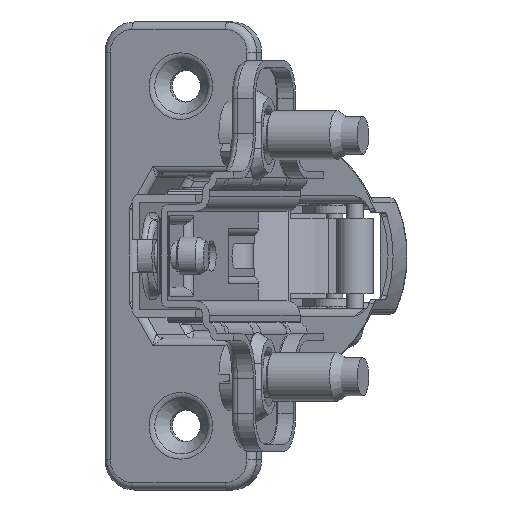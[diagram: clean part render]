
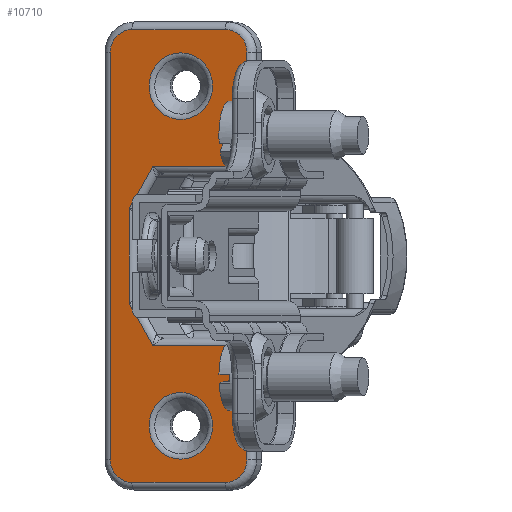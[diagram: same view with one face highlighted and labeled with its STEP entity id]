
A CAD part, left-side view. The second image highlights one B-rep face of the part: STEP entity #10710.
In plain terms, the highlighted planar face has unit normal (-0.953, 0.303, 0) as drawn and (0.393, 0.92, 0) by its records, which use the part's own axes.
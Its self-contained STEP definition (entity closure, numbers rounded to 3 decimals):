
#762=LINE('',#17765,#1545);
#763=LINE('',#17767,#1546);
#764=LINE('',#17769,#1547);
#765=LINE('',#17771,#1548);
#766=LINE('',#17773,#1549);
#767=LINE('',#17775,#1550);
#768=LINE('',#17777,#1551);
#769=LINE('',#17781,#1552);
#770=LINE('',#17785,#1553);
#771=LINE('',#17788,#1554);
#1545=VECTOR('',#13974,15.119);
#1546=VECTOR('',#13975,13.07);
#1547=VECTOR('',#13976,6.517);
#1548=VECTOR('',#13977,12.548);
#1549=VECTOR('',#13978,6.517);
#1550=VECTOR('',#13979,13.07);
#1551=VECTOR('',#13980,15.119);
#1552=VECTOR('',#13983,13.);
#1553=VECTOR('',#13986,54.);
#1554=VECTOR('',#13989,13.);
#2059=PLANE('',#11687);
#2227=FACE_BOUND('',#3268,.T.);
#2228=FACE_BOUND('',#3269,.T.);
#2572=FACE_OUTER_BOUND('',#3267,.T.);
#3267=EDGE_LOOP('',(#8345,#8346,#8347,#8348,#8349,#8350,#8351,#8352,#8353,
#8354,#8355,#8356,#8357,#8358));
#3268=EDGE_LOOP('',(#8359));
#3269=EDGE_LOOP('',(#8360));
#4038=CIRCLE('',#11686,4.414);
#4039=CIRCLE('',#11688,3.);
#4040=CIRCLE('',#11689,3.);
#4041=CIRCLE('',#11690,3.);
#4042=CIRCLE('',#11691,3.);
#4043=CIRCLE('',#11692,4.414);
#4839=VERTEX_POINT('',#17758);
#4840=VERTEX_POINT('',#17761);
#4841=VERTEX_POINT('',#17762);
#4842=VERTEX_POINT('',#17764);
#4843=VERTEX_POINT('',#17766);
#4844=VERTEX_POINT('',#17768);
#4845=VERTEX_POINT('',#17770);
#4846=VERTEX_POINT('',#17772);
#4847=VERTEX_POINT('',#17774);
#4848=VERTEX_POINT('',#17776);
#4849=VERTEX_POINT('',#17778);
#4850=VERTEX_POINT('',#17780);
#4851=VERTEX_POINT('',#17782);
#4852=VERTEX_POINT('',#17784);
#4853=VERTEX_POINT('',#17786);
#4854=VERTEX_POINT('',#17789);
#6090=EDGE_CURVE('',#4839,#4839,#4038,.T.);
#6091=EDGE_CURVE('',#4840,#4841,#4039,.T.);
#6092=EDGE_CURVE('',#4842,#4840,#762,.T.);
#6093=EDGE_CURVE('',#4843,#4842,#763,.T.);
#6094=EDGE_CURVE('',#4844,#4843,#764,.T.);
#6095=EDGE_CURVE('',#4845,#4844,#765,.T.);
#6096=EDGE_CURVE('',#4846,#4845,#766,.T.);
#6097=EDGE_CURVE('',#4847,#4846,#767,.T.);
#6098=EDGE_CURVE('',#4848,#4847,#768,.T.);
#6099=EDGE_CURVE('',#4849,#4848,#4040,.T.);
#6100=EDGE_CURVE('',#4850,#4849,#769,.T.);
#6101=EDGE_CURVE('',#4851,#4850,#4041,.T.);
#6102=EDGE_CURVE('',#4852,#4851,#770,.T.);
#6103=EDGE_CURVE('',#4853,#4852,#4042,.T.);
#6104=EDGE_CURVE('',#4841,#4853,#771,.T.);
#6105=EDGE_CURVE('',#4854,#4854,#4043,.T.);
#8345=ORIENTED_EDGE('',*,*,#6091,.F.);
#8346=ORIENTED_EDGE('',*,*,#6092,.F.);
#8347=ORIENTED_EDGE('',*,*,#6093,.F.);
#8348=ORIENTED_EDGE('',*,*,#6094,.F.);
#8349=ORIENTED_EDGE('',*,*,#6095,.F.);
#8350=ORIENTED_EDGE('',*,*,#6096,.F.);
#8351=ORIENTED_EDGE('',*,*,#6097,.F.);
#8352=ORIENTED_EDGE('',*,*,#6098,.F.);
#8353=ORIENTED_EDGE('',*,*,#6099,.F.);
#8354=ORIENTED_EDGE('',*,*,#6100,.F.);
#8355=ORIENTED_EDGE('',*,*,#6101,.F.);
#8356=ORIENTED_EDGE('',*,*,#6102,.F.);
#8357=ORIENTED_EDGE('',*,*,#6103,.F.);
#8358=ORIENTED_EDGE('',*,*,#6104,.F.);
#8359=ORIENTED_EDGE('',*,*,#6105,.F.);
#8360=ORIENTED_EDGE('',*,*,#6090,.F.);
#10710=ADVANCED_FACE('',(#2572,#2227,#2228),#2059,.T.);
#11686=AXIS2_PLACEMENT_3D('',#17759,#13968,#13969);
#11687=AXIS2_PLACEMENT_3D('',#17760,#13970,#13971);
#11688=AXIS2_PLACEMENT_3D('',#17763,#13972,#13973);
#11689=AXIS2_PLACEMENT_3D('',#17779,#13981,#13982);
#11690=AXIS2_PLACEMENT_3D('',#17783,#13984,#13985);
#11691=AXIS2_PLACEMENT_3D('',#17787,#13987,#13988);
#11692=AXIS2_PLACEMENT_3D('',#17790,#13990,#13991);
#13968=DIRECTION('center_axis',(0.393,0.92,0.));
#13969=DIRECTION('ref_axis',(-0.92,0.393,0.));
#13970=DIRECTION('center_axis',(0.393,0.92,0.));
#13971=DIRECTION('ref_axis',(-0.92,0.393,0.));
#13972=DIRECTION('center_axis',(-0.393,-0.92,0.));
#13973=DIRECTION('ref_axis',(-0.65,0.278,-0.707));
#13974=DIRECTION('',(0.,0.,-1.));
#13975=DIRECTION('',(-0.92,0.393,0.));
#13976=DIRECTION('',(-0.469,0.2,-0.86));
#13977=DIRECTION('',(0.,0.,-1.));
#13978=DIRECTION('',(0.469,-0.2,-0.86));
#13979=DIRECTION('',(0.92,-0.393,0.));
#13980=DIRECTION('',(0.,0.,-1.));
#13981=DIRECTION('center_axis',(-0.393,-0.92,0.));
#13982=DIRECTION('ref_axis',(-0.65,0.278,0.707));
#13983=DIRECTION('',(-0.92,0.393,0.));
#13984=DIRECTION('center_axis',(-0.393,-0.92,0.));
#13985=DIRECTION('ref_axis',(0.65,-0.278,0.707));
#13986=DIRECTION('',(0.,0.,1.));
#13987=DIRECTION('center_axis',(-0.393,-0.92,0.));
#13988=DIRECTION('ref_axis',(0.65,-0.278,-0.707));
#13989=DIRECTION('',(0.92,-0.393,0.));
#13990=DIRECTION('center_axis',(0.393,0.92,0.));
#13991=DIRECTION('ref_axis',(-0.92,0.393,0.));
#17758=CARTESIAN_POINT('',(42.537,-12.023,22.5));
#17759=CARTESIAN_POINT('Origin',(38.477,-10.29,22.5));
#17760=CARTESIAN_POINT('Origin',(48.41,-14.53,0.));
#17761=CARTESIAN_POINT('',(30.016,-6.678,-27.));
#17762=CARTESIAN_POINT('',(32.775,-7.856,-30.));
#17763=CARTESIAN_POINT('Origin',(32.775,-7.856,-27.));
#17764=CARTESIAN_POINT('',(30.016,-6.678,-11.881));
#17765=CARTESIAN_POINT('',(30.016,-6.678,0.));
#17766=CARTESIAN_POINT('',(42.037,-11.809,-11.881));
#17767=CARTESIAN_POINT('',(38.753,-10.408,-11.881));
#17768=CARTESIAN_POINT('',(45.092,-13.113,-6.274));
#17769=CARTESIAN_POINT('',(45.394,-13.242,-5.719));
#17770=CARTESIAN_POINT('',(45.092,-13.113,6.274));
#17771=CARTESIAN_POINT('',(45.092,-13.113,-3.));
#17772=CARTESIAN_POINT('',(42.037,-11.809,11.881));
#17773=CARTESIAN_POINT('',(46.724,-13.81,3.279));
#17774=CARTESIAN_POINT('',(30.016,-6.678,11.881));
#17775=CARTESIAN_POINT('',(44.961,-13.057,11.881));
#17776=CARTESIAN_POINT('',(30.016,-6.678,27.));
#17777=CARTESIAN_POINT('',(30.016,-6.678,0.));
#17778=CARTESIAN_POINT('',(32.775,-7.856,30.));
#17779=CARTESIAN_POINT('Origin',(32.775,-7.856,27.));
#17780=CARTESIAN_POINT('',(44.731,-12.959,30.));
#17781=CARTESIAN_POINT('',(39.755,-10.835,30.));
#17782=CARTESIAN_POINT('',(47.491,-14.137,27.));
#17783=CARTESIAN_POINT('Origin',(44.731,-12.959,27.));
#17784=CARTESIAN_POINT('',(47.491,-14.137,-27.));
#17785=CARTESIAN_POINT('',(47.491,-14.137,0.));
#17786=CARTESIAN_POINT('',(44.731,-12.959,-30.));
#17787=CARTESIAN_POINT('Origin',(44.731,-12.959,-27.));
#17788=CARTESIAN_POINT('',(39.755,-10.835,-30.));
#17789=CARTESIAN_POINT('',(42.537,-12.023,-22.5));
#17790=CARTESIAN_POINT('Origin',(38.477,-10.29,-22.5));
